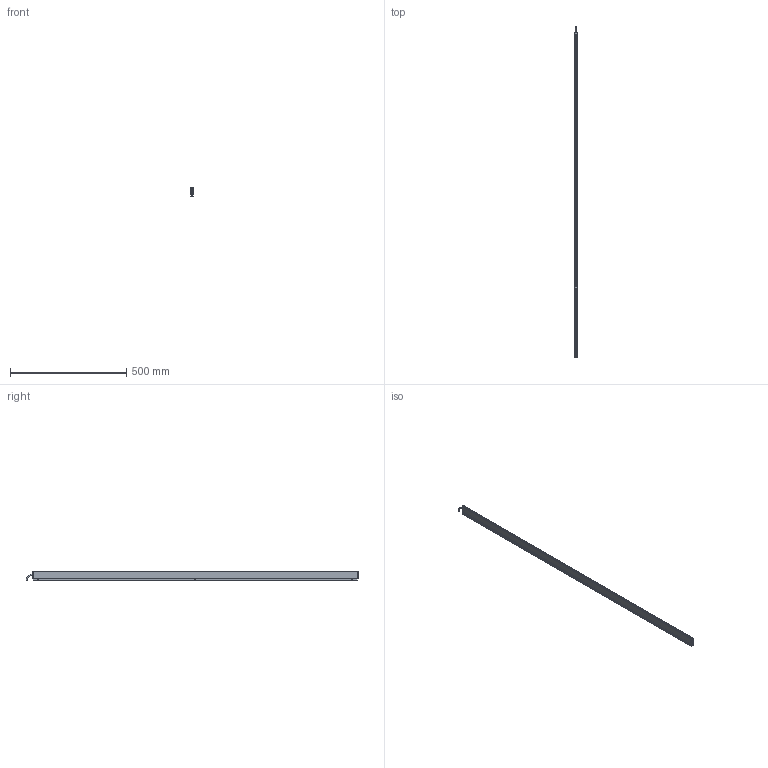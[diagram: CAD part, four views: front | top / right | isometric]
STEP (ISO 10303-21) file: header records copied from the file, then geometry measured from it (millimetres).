
FILE_DESCRIPTION (( 'STEP AP214' ), '1' );
FILE_NAME ('ILG-L-K1-1400mm.STEP', '2017-07-11T07:10:33', ( '' ), ( '' ), 'SwSTEP 2.0', 'SolidWorks 2016', '' );
FILE_SCHEMA (( 'AUTOMOTIVE_DESIGN' ));
Length unit declared in the file: millimetre
Products named in the file (1): ILG-L-K1-1400mm
Bounding box: 9 x 1428.25 x 40.71 mm (x, y, z)
Volume: 198411.2 mm3; surface area: 276033.5 mm2
Topology: 9 solids, 9 shells, 430 faces, 1108 edges, 698 vertices
Faces by surface type: plane 205, cylinder 151, cone 64, torus 10
Entity records: 17910 total; most frequent: CARTESIAN_POINT 2385, DIRECTION 2328, ORIENTED_EDGE 2200, EDGE_CURVE 1100, AXIS2_PLACEMENT_3D 849, VERTEX_POINT 698, VECTOR 630, LINE 630
